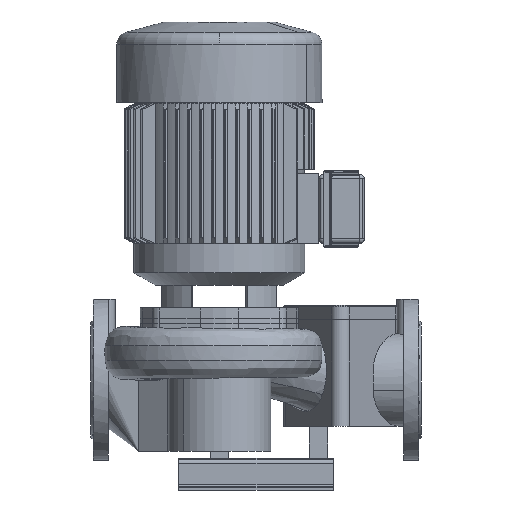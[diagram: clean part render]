
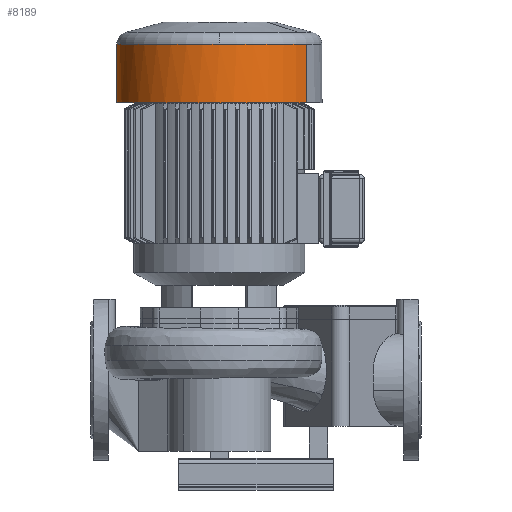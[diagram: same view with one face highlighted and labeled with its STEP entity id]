
A CAD part, left-side view. The second image highlights one B-rep face of the part: STEP entity #8189.
In plain terms, the highlighted cylindrical face has radius 140 mm (diameter 280 mm), a partial arc.
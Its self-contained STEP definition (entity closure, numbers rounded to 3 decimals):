
#8189=ADVANCED_FACE('',(#18078),#18079,.T.);
#8269=EDGE_CURVE('',#18200,#18203,#18204,.T.);
#8273=EDGE_CURVE('',#18209,#18210,#18211,.T.);
#8275=EDGE_CURVE('',#18203,#18213,#18214,.T.);
#18078=FACE_OUTER_BOUND('',#37625,.T.);
#18079=CYLINDRICAL_SURFACE('',#37626,140.0);
#18200=VERTEX_POINT('',#37751);
#18203=VERTEX_POINT('',#37755);
#18204=CIRCLE('',#37756,140.0);
#18209=VERTEX_POINT('',#37763);
#18210=VERTEX_POINT('',#37764);
#18211=CIRCLE('',#37765,140.0);
#18213=VERTEX_POINT('',#37768);
#18214=CIRCLE('',#37769,140.0);
#37625=EDGE_LOOP('',(#57302,#57303,#57304,#57305,#57306));
#37626=AXIS2_PLACEMENT_3D('',#57307,#57308,#57309);
#37751=CARTESIAN_POINT('',(-201.821,191.467,245.12));
#37755=CARTESIAN_POINT('',(-415.93,72.69,245.12));
#37756=AXIS2_PLACEMENT_3D('',#57650,#57651,#57652);
#37763=CARTESIAN_POINT('',(-201.821,191.467,165.12));
#37764=CARTESIAN_POINT('',(-350.039,-46.087,165.12));
#37765=AXIS2_PLACEMENT_3D('',#57656,#57657,#57658);
#37768=CARTESIAN_POINT('',(-350.039,-46.087,245.12));
#37769=AXIS2_PLACEMENT_3D('',#57659,#57660,#57661);
#57302=ORIENTED_EDGE('',*,*,#67176,.F.);
#57303=ORIENTED_EDGE('',*,*,#8273,.T.);
#57304=ORIENTED_EDGE('',*,*,#67177,.F.);
#57305=ORIENTED_EDGE('',*,*,#8275,.F.);
#57306=ORIENTED_EDGE('',*,*,#8269,.F.);
#57307=CARTESIAN_POINT('',(-275.93,72.69,205.12));
#57308=DIRECTION('',(0.0,-0.0,1.0));
#57309=DIRECTION('',(0.529,0.848,0.0));
#57650=CARTESIAN_POINT('',(-275.93,72.69,245.12));
#57651=DIRECTION('',(0.0,-0.0,1.0));
#57652=DIRECTION('',(0.529,0.848,0.0));
#57656=CARTESIAN_POINT('',(-275.93,72.69,165.12));
#57657=DIRECTION('',(0.0,-0.0,1.0));
#57658=DIRECTION('',(0.529,0.848,0.0));
#57659=CARTESIAN_POINT('',(-275.93,72.69,245.12));
#57660=DIRECTION('',(0.0,-0.0,1.0));
#57661=DIRECTION('',(0.529,0.848,0.0));
#67176=EDGE_CURVE('',#18209,#18200,#69582,.T.);
#67177=EDGE_CURVE('',#18213,#18210,#69583,.T.);
#69582=LINE('',#74002,#74003);
#69583=LINE('',#74004,#74005);
#74002=CARTESIAN_POINT('',(-201.821,191.467,205.12));
#74003=VECTOR('',#75750,1.0);
#74004=CARTESIAN_POINT('',(-350.039,-46.087,205.12));
#74005=VECTOR('',#75751,1.0);
#75750=DIRECTION('',(0.0,0.0,1.0));
#75751=DIRECTION('',(-0.0,-0.0,-1.0));
